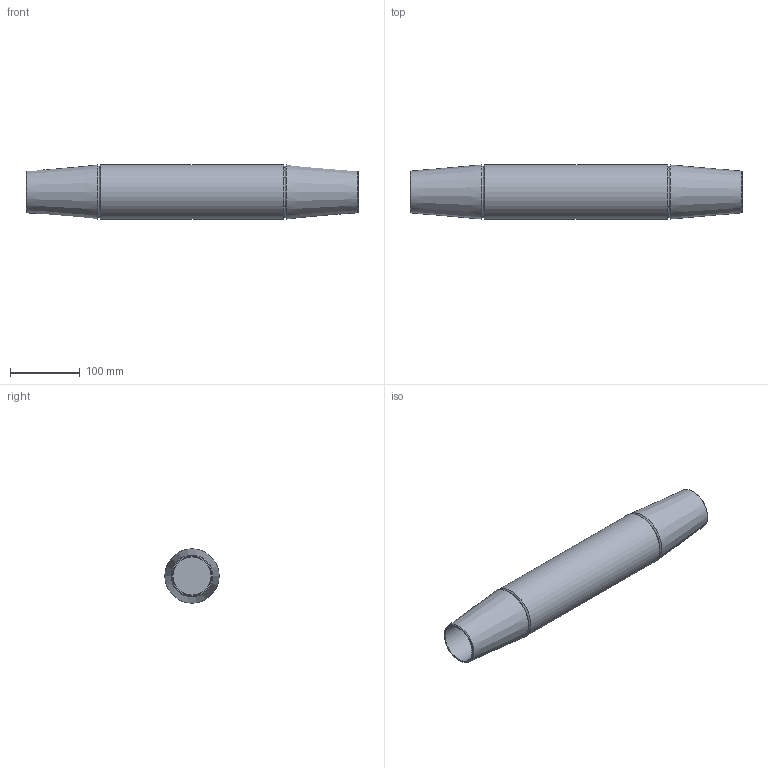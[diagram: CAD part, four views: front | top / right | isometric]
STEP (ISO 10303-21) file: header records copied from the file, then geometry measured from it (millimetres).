
FILE_DESCRIPTION(/* description */ (''),/* implementation_level */ '2;1');
FILE_NAME(/* name */ 'G:\Engineering\700 CAD\Internet-PX-1-step-igs-dxf\520-MUF-Arbeitsdateien\520-052-MUF.stp',/* time_stamp */ '2020-06-30T13:18:25+02:00',/* author */ ('schwarz'),/* organization */ (''),/* preprocessor_version */ 'ST-DEVELOPER v16.1',/* originating_system */ 'Autodesk Inventor 2016',/* authorisation */ '');
FILE_SCHEMA (('AUTOMOTIVE_DESIGN { 1 0 10303 214 3 1 1 }'));
Length unit declared in the file: centimetre
Products named in the file (1): Zusammenbau Muffe 520 052 Kunde
Bounding box: 476 x 78 x 78 mm (x, y, z)
Volume: 1686004.6 mm3; surface area: 143871.4 mm2
Topology: 1 solids, 1 shells, 15 faces, 25 edges, 14 vertices
Faces by surface type: cone 8, plane 4, cylinder 3
Full cylindrical faces by diameter (mm): 54.5 x2, 78 x1
Entity records: 347 total; most frequent: DIRECTION 60, CARTESIAN_POINT 44, AXIS2_PLACEMENT_3D 30, EDGE_LOOP 28, ORIENTED_EDGE 28, STYLED_ITEM 16, FACE_OUTER_BOUND 15, ADVANCED_FACE 15
